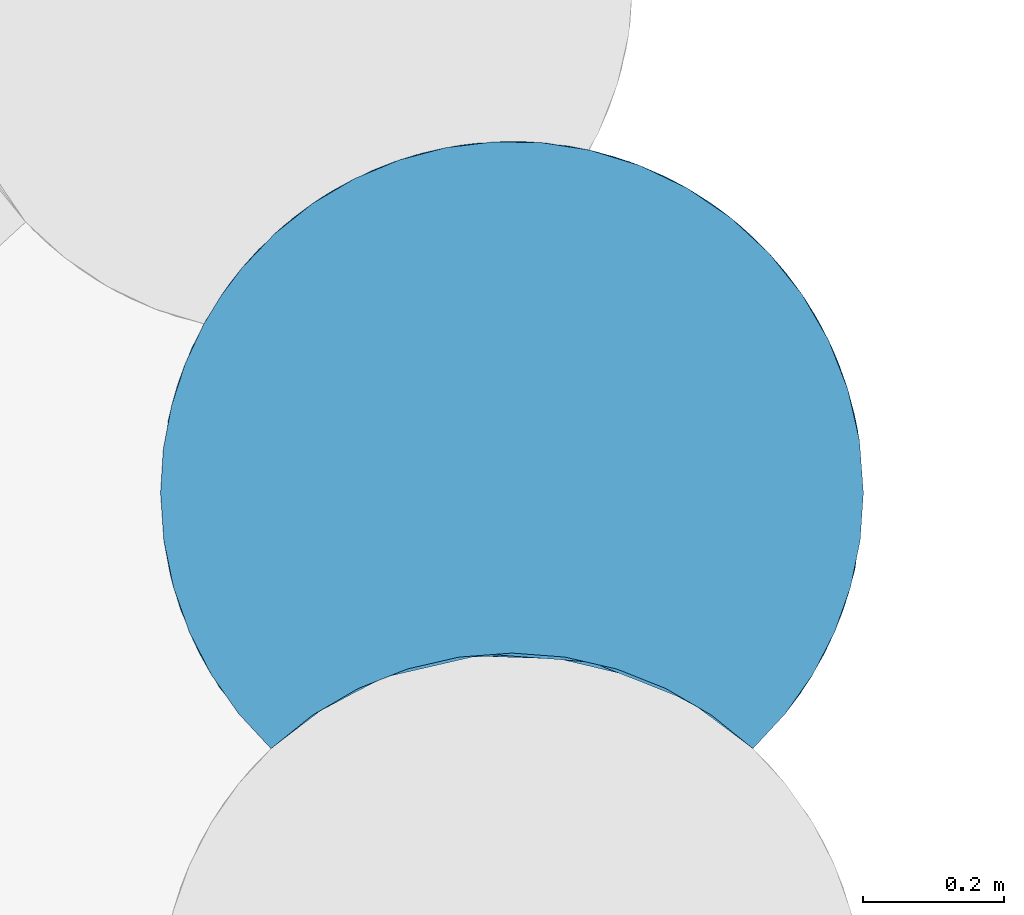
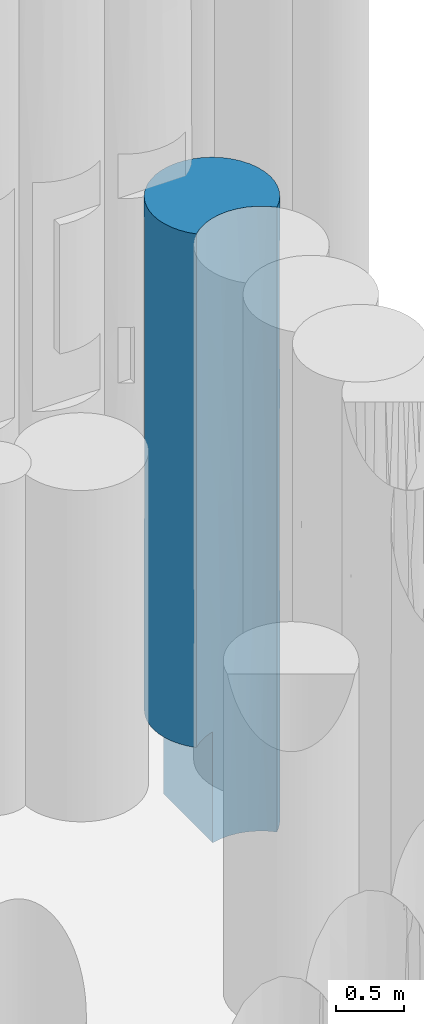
# One storey, part 67 of 104: 1 pile.
"""IFC2X3 building model written with IfcOpenShell, lengths in millimetres."""

from ifc_helpers import new_model, entity, si_unit, converted_unit, derived_unit, direction, frame, origin, place, context, subcontext, project, spatial, faceted_brep, source, transform, mapped, material, element, save


model = new_model("IFC2X3")

# Units and contexts
model_context = context("Model", 3, precision=0.01, world=origin(), true_north=direction((6.12303176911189e-17, 1.0)))
body_context = subcontext(model_context, "Body", "Model", "MODEL_VIEW")
ifc_project = project(units=[si_unit("LENGTHUNIT", "METRE", prefix="MILLI"), si_unit("AREAUNIT", "SQUARE_METRE", prefix="MILLI"), si_unit("VOLUMEUNIT", "CUBIC_METRE"), converted_unit("PLANEANGLEUNIT", "DEGREE", entity("IfcRatioMeasure", 0.0174532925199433), si_unit("PLANEANGLEUNIT", "RADIAN"), dimensions=[0, 0, 0, 0, 0, 0, 0]), si_unit("MASSUNIT", "GRAM", prefix="KILO"), derived_unit("MASSDENSITYUNIT", [(si_unit("MASSUNIT", "GRAM", prefix="KILO"), 1), (si_unit("LENGTHUNIT", "METRE"), -3)]), derived_unit("MOMENTOFINERTIAUNIT", [(si_unit("LENGTHUNIT", "METRE"), 4)]), si_unit("TIMEUNIT", "SECOND"), si_unit("FREQUENCYUNIT", "HERTZ"), si_unit("THERMODYNAMICTEMPERATUREUNIT", "DEGREE_CELSIUS"), derived_unit("THERMALTRANSMITTANCEUNIT", [(si_unit("MASSUNIT", "GRAM", prefix="KILO"), 1), (si_unit("THERMODYNAMICTEMPERATUREUNIT", "KELVIN"), -1), (si_unit("TIMEUNIT", "SECOND"), -3)]), derived_unit("VOLUMETRICFLOWRATEUNIT", [(si_unit("LENGTHUNIT", "METRE"), 3), (si_unit("TIMEUNIT", "SECOND"), -1)]), si_unit("ELECTRICCURRENTUNIT", "AMPERE"), si_unit("ELECTRICVOLTAGEUNIT", "VOLT"), si_unit("POWERUNIT", "WATT"), si_unit("FORCEUNIT", "NEWTON", prefix="KILO"), si_unit("ILLUMINANCEUNIT", "LUX"), si_unit("LUMINOUSFLUXUNIT", "LUMEN"), si_unit("LUMINOUSINTENSITYUNIT", "CANDELA"), derived_unit("USERDEFINED", [(si_unit("MASSUNIT", "GRAM", prefix="KILO"), -1), (si_unit("LENGTHUNIT", "METRE"), -2), (si_unit("TIMEUNIT", "SECOND"), 3), (si_unit("LUMINOUSFLUXUNIT", "LUMEN"), 1)]), derived_unit("LINEARVELOCITYUNIT", [(si_unit("LENGTHUNIT", "METRE"), 1), (si_unit("TIMEUNIT", "SECOND"), -1)]), si_unit("PRESSUREUNIT", "PASCAL"), derived_unit("USERDEFINED", [(si_unit("LENGTHUNIT", "METRE"), -2), (si_unit("MASSUNIT", "GRAM", prefix="KILO"), 1), (si_unit("TIMEUNIT", "SECOND"), -2)]), derived_unit("LINEARFORCEUNIT", [(si_unit("MASSUNIT", "GRAM", prefix="KILO"), 1), (si_unit("LENGTHUNIT", "METRE"), 1), (si_unit("TIMEUNIT", "SECOND"), -2), (si_unit("LENGTHUNIT", "METRE"), -1)]), derived_unit("PLANARFORCEUNIT", [(si_unit("MASSUNIT", "GRAM", prefix="KILO"), 1), (si_unit("LENGTHUNIT", "METRE"), 1), (si_unit("TIMEUNIT", "SECOND"), -2), (si_unit("LENGTHUNIT", "METRE"), -2)])], contexts=[model_context])

# Site, building, storey
site_placement = place(None, origin())
site = spatial("IfcSite", under=ifc_project, at=site_placement, Name="Theater aan de Parade", CompositionType="ELEMENT")
building_placement = place(site_placement, origin())
building = spatial("IfcBuilding", under=site, at=building_placement, Name="Theater aan de Parade", CompositionType="ELEMENT")
storey_placement = place(building_placement, frame((0.0, 0.0, -5520.0)))
storey = spatial("IfcBuildingStorey", under=building, at=storey_placement, Name="-2 kelder", CompositionType="ELEMENT", Elevation=-5520.0)

# Pile
ifc_material = material(Name="00_PBT_MAT_grout")
shared_shape = source(origin(), body_context, "Body", "Brep", [
    faceted_brep([(812.887768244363, 756.871366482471, 0.0), (867.791761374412, 706.036355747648, 0.0), (914.495376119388, 647.576662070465, 0.0), (951.952432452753, 582.801230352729, 0.0), (979.323750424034, 513.160515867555, 0.0), (995.995891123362, 440.214492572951, 0.0), (1001.59527223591, 365.595272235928, 0.0), (996.982362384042, 297.833698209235, 0.0), (983.235035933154, 231.344990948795, 0.0), (960.607207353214, 167.332710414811, 0.0), (929.517907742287, 106.979305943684, 0.0), (890.53945920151, 51.3940319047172, 0.0), (844.383836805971, 1.59527223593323, 0.0), (787.156098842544, 48.0279881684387, 0.0), (723.725648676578, 85.5440370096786, 0.0), (655.469938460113, 113.329007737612, 0.0), (583.871954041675, 130.779363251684, 0.0), (510.487049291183, 137.516202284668, 0.0), (436.909351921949, 133.39334777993, 0.0), (364.737142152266, 118.500514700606, 0.0), (364.737142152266, 846.500514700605, 0.0), (425.784920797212, 859.814647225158, 0.0), (487.970345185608, 865.409599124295, 0.0), (550.373420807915, 863.210276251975, 0.0), (612.00524091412, 853.248845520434, 0.0), (683.553648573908, 831.311010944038, 0.0), (751.013141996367, 798.943545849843, 0.0), (934.43743278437, 615.890426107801, 4656.29653965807), (918.330139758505, 641.877827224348, 3709.62249128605), (841.294741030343, 732.479819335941, 4220.06057881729), (36.5438200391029, 549.244793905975, 1000.0), (25.9539196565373, 519.755266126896, 2418.16418403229), (66.0182594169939, 611.100192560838, 2492.53964541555), (799.035524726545, 767.502346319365, 862.819120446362), (892.238662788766, 677.681384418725, 1376.46464846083), (914.495867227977, 647.575942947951, 5620.0), (951.952247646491, 582.801613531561, 5620.0), (648.211004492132, 843.616011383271, 4608.45095929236), (612.037790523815, 853.245198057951, 5620.0), (683.562454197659, 831.307570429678, 5620.0), (989.026319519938, 476.999823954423, 963.707891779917), (959.264044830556, 566.9389947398, 862.818197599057), (5.52105728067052, 428.128249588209, 1000.0), (1.5952722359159, 365.595272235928, 2561.53770802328), (449.192474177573, 862.84163648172, 2715.44497232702), (509.732064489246, 865.529060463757, 3995.58336192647), (581.359472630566, 859.191941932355, 2478.56034990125), (966.942663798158, 548.493618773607, 1721.01773778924), (892.238661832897, 677.681385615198, 2809.99850125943), (622.534621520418, 850.74851997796, 1206.77053900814), (509.732064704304, 865.529060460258, 4838.55614844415), (519.206248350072, 865.285029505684, 1289.17157848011), (717.889699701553, 816.390925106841, 963.692413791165), (782.738554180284, 779.066498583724, 1721.00504557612), (681.943522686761, 831.936894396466, 1982.10457906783), (755.661204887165, 796.2349149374, 2772.45931740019), (942.413971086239, 601.558987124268, 2972.24596989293), (101.930876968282, 666.0422245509, 4477.90921121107), (45.4274141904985, 570.31675446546, 3312.28972260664), (25.9586572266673, 519.769882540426, 4206.49389804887), (340.603247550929, 838.967818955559, 5620.0), (407.081063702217, 856.581080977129, 5620.0), (373.53897360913, 848.918750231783, 4449.53297855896), (989.026033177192, 477.001076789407, 4656.29451314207), (979.323428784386, 513.161557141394, 5620.0), (179.409183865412, 747.951290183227, 4758.5717499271), (116.731883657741, 684.78200775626, 5620.0), (164.156184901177, 734.559853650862, 5620.0), (966.94238594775, 548.494325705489, 3898.98412417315), (333.310216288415, 836.424476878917, 3300.58904569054), (246.963665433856, 795.900681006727, 4315.75599954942), (995.995670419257, 440.21595486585, 5620.0), (717.897154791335, 816.387348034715, 3791.07727129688), (741.260566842, 804.412485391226, 4692.51517767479), (812.891499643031, 756.868397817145, 5620.0), (867.793565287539, 706.034415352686, 5620.0), (1001.59527223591, 365.595272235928, 2810.0), (993.930367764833, 452.808537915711, 1861.19244637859), (977.932642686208, 517.591027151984, 2810.0018788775), (1001.59527223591, 365.595272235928, 4215.0), (1001.59527223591, 365.595272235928, 5620.0), (613.624956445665, 852.883020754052, 3633.08350513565), (751.019281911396, 798.940011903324, 5620.0), (1.5952722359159, 365.595272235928, 4123.07541604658), (12.6547691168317, 470.176266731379, 3266.84449465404), (164.427889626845, 734.808159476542, 3896.41814005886), (101.930876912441, 666.042224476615, 3314.92706980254), (119.000334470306, 687.497607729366, 2151.31379189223), (189.801901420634, 756.472355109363, 1000.0), (141.064651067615, 712.030938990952, 1000.0), (364.737142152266, 846.500514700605, 1000.0), (419.478909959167, 858.806082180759, 3664.26086265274), (17.2357550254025, 489.675319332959, 5620.0), (5.52266445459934, 428.140997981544, 5620.0), (427.76137510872, 860.113781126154, 1764.93732589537), (216.263061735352, 776.186954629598, 2450.13950075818), (243.966968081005, 794.113249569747, 1000.0), (63.1527539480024, 605.945346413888, 1000.0), (333.31021650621, 836.424476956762, 2130.30089742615), (217.971875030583, 777.369201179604, 5620.0), (667.055762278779, 837.424506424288, 2875.43147194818), (17.2319166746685, 489.660334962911, 1000.0), (1001.59527223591, 365.595272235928, 1405.0), (98.6021707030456, 661.562432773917, 1000.0), (475.338327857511, 864.905369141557, 5620.0), (1.5952722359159, 365.595272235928, 5620.0), (544.087288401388, 863.786428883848, 5620.0), (302.616461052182, 824.297171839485, 1000.0), (233.014659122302, 787.335066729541, 3379.8480689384), (277.161330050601, 812.394338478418, 5620.0), (829.999439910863, 742.624054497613, 2441.78180757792), (819.059947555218, 751.88037410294, 3346.72358793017), (88.0415037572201, 646.617122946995, 5620.0), (993.930289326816, 452.808980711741, 3758.80889823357), (63.1551977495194, 605.949804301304, 5620.0), (1.5952722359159, 365.595272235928, 1000.0), (36.5494259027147, 549.258988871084, 5620.0), (1001.59527223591, 365.59527223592, 1561.53770595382), (1001.59527223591, 365.59527223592, 4058.46229404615), (1001.59527223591, 365.59527223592, 3123.07541190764), (1.5952722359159, 365.595272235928, 3342.30656203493), (112.651806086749, 51.3931396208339, 1000.0), (158.80670766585, 1.59527223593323, 2561.53570825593), (57.0976622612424, 136.637034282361, 2043.51622610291), (57.0986428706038, 136.635130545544, 4223.52863500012), (30.1762797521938, 198.969543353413, 2936.01182275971), (86.0518049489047, 87.5240101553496, 3074.84642140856), (158.806707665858, 1.59527223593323, 4058.46169591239), (158.80670766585, 1.59527223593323, 4123.07141651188), (42.5776896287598, 167.345785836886, 1000.0), (73.6691815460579, 106.985023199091, 1000.0), (19.9506701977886, 231.36235031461, 1000.0), (17.9763530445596, 238.659300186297, 2004.37665206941), (6.20537477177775, 297.854224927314, 1000.0), (73.6675450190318, 106.9877312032, 5620.0), (112.644025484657, 51.4027712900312, 5620.0), (6.20826767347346, 297.833072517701, 5620.0), (15.2946867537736, 249.355259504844, 4493.1728295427), (42.5806424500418, 167.338949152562, 5620.0), (158.806707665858, 1.59527223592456, 5620.0), (158.80670766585, 1.59527223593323, 1000.0), (158.806707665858, 1.59527223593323, 2496.92339182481), (19.9546104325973, 231.348213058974, 5620.0), (501.595272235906, 137.595272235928, 5620.0), (576.847851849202, 131.899884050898, 5620.0), (650.386060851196, 114.94346928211, 5620.0), (720.534584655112, 87.1123213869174, 5620.0), (785.695330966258, 49.0404771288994, 5620.0), (844.383836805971, 1.59527223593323, 5620.0), (890.539459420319, 51.3940321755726, 5620.0), (929.517907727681, 106.979305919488, 5620.0), (960.607207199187, 167.33271005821, 5620.0), (983.235035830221, 231.344990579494, 5620.0), (996.982362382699, 297.833698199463, 5620.0), (217.495213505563, 49.0404771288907, 5620.0), (282.655959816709, 87.1123213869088, 5620.0), (352.804483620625, 114.94346928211, 5620.0), (426.342692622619, 131.899884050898, 5620.0), (547.303785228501, 135.501620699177, 1387.23923645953), (663.924183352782, 110.511041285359, 934.401466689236), (844.383836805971, 1.59527223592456, 1561.53729567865), (756.13299546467, 67.9562224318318, 1012.04504322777), (234.87258907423, 60.5125339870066, 2140.44524555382), (326.888569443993, 106.07960281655, 2273.76174989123), (230.480195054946, 57.7102742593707, 3093.76199749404), (317.204382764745, 102.35327365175, 3595.66345784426), (417.235772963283, 130.427368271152, 3000.25703825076), (220.920469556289, 51.3846572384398, 1000.0), (290.148891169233, 90.6851396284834, 1000.0), (690.110387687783, 100.695748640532, 1836.49016171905), (775.575678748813, 55.8472738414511, 1951.92214500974), (613.937328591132, 124.811099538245, 4689.57401529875), (317.204382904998, 102.353273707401, 4637.58130436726), (240.363286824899, 63.9259535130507, 4116.62238173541), (753.834282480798, 69.3075395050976, 4689.57401410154), (685.98616065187, 102.353274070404, 3979.39544583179), (844.383836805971, 1.59527223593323, 3123.07513499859), (844.383836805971, 1.59527223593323, 4058.46216068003), (771.745206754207, 58.3315469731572, 3590.76885698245), (692.005096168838, 99.9199405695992, 2908.69057396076), (592.819727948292, 129.202939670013, 3801.56044210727), (539.32916939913, 136.169392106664, 3038.71020674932), (438.382663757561, 133.583342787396, 1893.88353969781), (463.861374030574, 136.169392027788, 4259.36317315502), (364.737142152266, 118.500514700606, 1000.0), (781.045655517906, 52.2125454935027, 2773.42719735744), (598.023677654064, 128.208727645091, 2235.58557925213), (462.725547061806, 136.082127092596, 891.33523612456), (844.383836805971, 1.59527223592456, 2342.30621533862), (909.34885610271, 76.2217854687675, 2700.74005300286), (946.088091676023, 136.627734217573, 1935.9672496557), (988.22203301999, 250.728411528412, 3590.76885291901), (973.008888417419, 198.95433345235, 4676.46966098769), (946.088091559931, 136.627733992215, 3903.21291059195), (990.307935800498, 259.954690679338, 2342.3065587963), (973.008888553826, 198.954333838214, 1043.48167383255), (925.554743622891, 100.532323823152, 1004.36077692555), (910.973193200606, 78.5243440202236, 4676.47304371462), (961.351261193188, 169.064280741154, 2919.5900805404)], [[[0, 1, 2, 3, 4, 5, 6, 7, 8, 9, 10, 11, 12, 13, 14, 15, 16, 17, 18, 19, 20, 21, 22, 23, 24, 25, 26]], [[27, 28, 29]], [[30, 31, 32]], [[33, 1, 0]], [[34, 2, 1]], [[35, 36, 27]], [[37, 38, 39]], [[40, 4, 41]], [[42, 43, 31]], [[34, 41, 2]], [[44, 45, 46]], [[47, 34, 48]], [[49, 25, 24]], [[37, 45, 50]], [[49, 23, 51]], [[33, 52, 53]], [[54, 55, 53]], [[48, 28, 56]], [[23, 49, 24]], [[26, 52, 33]], [[57, 58, 59]], [[49, 46, 54]], [[23, 22, 51]], [[60, 61, 62]], [[63, 27, 64]], [[4, 3, 41]], [[65, 66, 67]], [[36, 64, 27]], [[68, 27, 63]], [[52, 26, 25]], [[69, 70, 62]], [[71, 63, 64]], [[4, 40, 5]], [[72, 37, 73]], [[74, 75, 29]], [[76, 77, 78]], [[79, 63, 80]], [[81, 45, 37]], [[37, 39, 73]], [[21, 51, 22]], [[32, 31, 58]], [[73, 39, 82]], [[83, 59, 84]], [[37, 50, 38]], [[85, 86, 57]], [[52, 54, 53]], [[87, 88, 89]], [[20, 90, 21]], [[91, 69, 62]], [[92, 59, 93]], [[51, 90, 94]], [[95, 96, 88]], [[30, 32, 97]], [[33, 0, 26]], [[69, 98, 95]], [[95, 88, 87]], [[70, 65, 99]], [[59, 58, 84]], [[100, 54, 46]], [[86, 58, 57]], [[31, 30, 101]], [[101, 42, 31]], [[77, 102, 40]], [[59, 83, 93]], [[95, 98, 96]], [[87, 89, 103]], [[73, 74, 29]], [[50, 61, 104]], [[83, 105, 93]], [[61, 50, 62]], [[50, 104, 106]], [[90, 107, 98]], [[85, 108, 95]], [[109, 62, 70]], [[85, 95, 86]], [[48, 110, 111]], [[75, 35, 27]], [[62, 109, 60]], [[70, 85, 65]], [[109, 70, 99]], [[112, 66, 57]], [[87, 103, 97]], [[41, 47, 40]], [[113, 76, 78]], [[57, 114, 112]], [[98, 107, 96]], [[59, 114, 57]], [[42, 115, 43]], [[95, 87, 86]], [[114, 59, 116]], [[5, 40, 6]], [[116, 59, 92]], [[34, 53, 110]], [[98, 69, 44]], [[51, 21, 90]], [[81, 37, 72]], [[90, 98, 94]], [[28, 27, 68]], [[75, 27, 29]], [[77, 40, 47]], [[6, 40, 102]], [[80, 63, 71]], [[113, 63, 79]], [[50, 106, 38]], [[62, 50, 45]], [[44, 69, 91]], [[94, 46, 51]], [[49, 54, 52]], [[100, 55, 54]], [[111, 72, 29]], [[110, 53, 55]], [[56, 68, 78]], [[28, 48, 111]], [[100, 72, 55]], [[46, 45, 81]], [[78, 77, 47]], [[77, 76, 117, 102]], [[56, 47, 48]], [[68, 63, 113]], [[113, 79, 118, 119, 76]], [[78, 68, 113]], [[57, 66, 65]], [[85, 70, 108]], [[70, 69, 108]], [[69, 95, 108]], [[49, 52, 25]], [[46, 49, 51]], [[74, 73, 82]], [[29, 72, 73]], [[68, 56, 28]], [[47, 56, 78]], [[53, 34, 33]], [[1, 33, 34]], [[2, 41, 3]], [[34, 47, 41]], [[57, 65, 85]], [[99, 65, 67]], [[46, 81, 100]], [[72, 100, 81]], [[98, 44, 94]], [[46, 94, 44]], [[111, 110, 55]], [[34, 110, 48]], [[72, 111, 55]], [[111, 29, 28]], [[32, 86, 87]], [[120, 83, 84, 43]], [[84, 58, 31]], [[43, 84, 31]], [[86, 32, 58]], [[97, 32, 87]], [[62, 45, 91]], [[44, 91, 45]], [[121, 122, 123]], [[124, 125, 126]], [[126, 122, 127, 128]], [[123, 129, 130]], [[131, 129, 132]], [[133, 132, 43]], [[125, 83, 120, 43]], [[134, 124, 135]], [[136, 105, 83]], [[129, 123, 132]], [[136, 83, 137]], [[125, 43, 132]], [[124, 138, 137]], [[115, 133, 43]], [[121, 123, 130]], [[128, 139, 135]], [[124, 134, 138]], [[137, 125, 124]], [[121, 140, 141, 122]], [[133, 131, 132]], [[138, 142, 137]], [[123, 125, 132]], [[135, 124, 128]], [[126, 125, 123]], [[126, 123, 122]], [[126, 128, 124]], [[136, 137, 142]], [[125, 137, 83]], [[143, 144, 145, 146, 147, 148, 149, 150, 151, 152, 153, 80, 71, 64, 36, 35, 75, 74, 82, 39, 38, 106, 104, 61, 60, 109, 99, 67, 66, 112, 114, 116, 92, 93, 105, 136, 142, 138, 134, 135, 139, 154, 155, 156, 157]], [[158, 16, 159]], [[160, 161, 12]], [[162, 163, 164]], [[165, 163, 166]], [[162, 167, 168]], [[161, 169, 159]], [[170, 169, 161]], [[145, 144, 171]], [[159, 15, 14]], [[165, 172, 173]], [[145, 171, 174, 146]], [[140, 162, 141]], [[175, 174, 171]], [[176, 177, 178]], [[179, 180, 181]], [[166, 163, 182]], [[171, 183, 180]], [[154, 172, 155]], [[163, 184, 182]], [[157, 156, 172]], [[184, 19, 18]], [[174, 177, 148]], [[17, 16, 158]], [[141, 162, 164]], [[178, 185, 176]], [[159, 14, 161]], [[183, 157, 172]], [[158, 169, 186]], [[173, 172, 154]], [[144, 143, 171]], [[164, 173, 127]], [[179, 178, 175]], [[174, 147, 146]], [[157, 183, 143]], [[184, 163, 168]], [[172, 165, 183]], [[154, 139, 128, 127]], [[172, 156, 155]], [[181, 183, 166]], [[187, 18, 17]], [[184, 18, 187]], [[12, 161, 13]], [[13, 161, 14]], [[175, 171, 180]], [[183, 171, 143]], [[147, 174, 148]], [[177, 174, 178]], [[185, 170, 188]], [[175, 178, 174]], [[188, 170, 160]], [[186, 169, 179]], [[185, 178, 179]], [[160, 170, 161]], [[169, 170, 179]], [[175, 180, 179]], [[181, 180, 183]], [[165, 173, 164]], [[127, 173, 154]], [[165, 164, 163]], [[164, 127, 122, 141]], [[163, 162, 168]], [[167, 162, 140]], [[15, 159, 16]], [[159, 169, 158]], [[165, 166, 183]], [[182, 186, 181]], [[166, 182, 181]], [[187, 158, 182]], [[176, 185, 188]], [[170, 185, 179]], [[184, 187, 182]], [[158, 187, 17]], [[158, 186, 182]], [[181, 186, 179]], [[189, 160, 190]], [[191, 192, 193]], [[194, 195, 117]], [[195, 9, 8]], [[195, 196, 9]], [[10, 9, 196]], [[10, 196, 11]], [[197, 151, 150]], [[176, 193, 177]], [[192, 197, 193]], [[153, 152, 192]], [[153, 192, 118]], [[197, 192, 151]], [[12, 11, 160]], [[7, 6, 102, 117]], [[153, 118, 79, 80]], [[150, 149, 197]], [[195, 7, 117]], [[194, 117, 76, 119]], [[194, 119, 191]], [[119, 118, 191]], [[190, 198, 189]], [[195, 190, 196]], [[148, 177, 197]], [[7, 195, 8]], [[152, 151, 192]], [[148, 197, 149]], [[177, 193, 197]], [[192, 191, 118]], [[198, 191, 193]], [[198, 194, 191]], [[195, 194, 190]], [[190, 160, 196]], [[11, 196, 160]], [[189, 193, 176]], [[194, 198, 190]], [[193, 189, 198]], [[189, 176, 188, 160]], [[103, 89, 88, 96, 107, 90, 184, 168, 167, 140, 121, 130, 129, 131, 133, 115, 42, 101, 30, 97]], [[184, 90, 20, 19]]]),
])
pile_placement = place(storey_placement, frame((41760.2628578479, 43215.2179922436, -3840.0)))
element("IfcPile", 1, at=pile_placement, inside=storey, material=ifc_material, Name="17_PBT_SFO_grondkering_rond:Ø1000 (grondkering)", ObjectType="17_PBT_SFO_grondkering_rond:Ø1000 (grondkering)", PredefinedType="NOTDEFINED", context=body_context, shape_type="MappedRepresentation", body=[
    mapped(shared_shape, transform((0.0, 0.0, 0.0), scale=1.0)),
])

save(model, "model.ifc")
